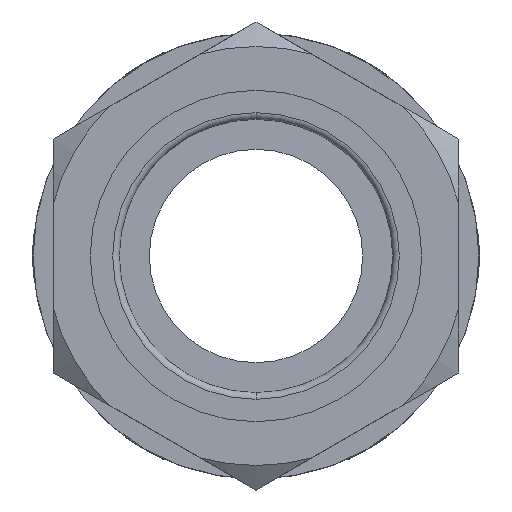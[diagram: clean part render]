
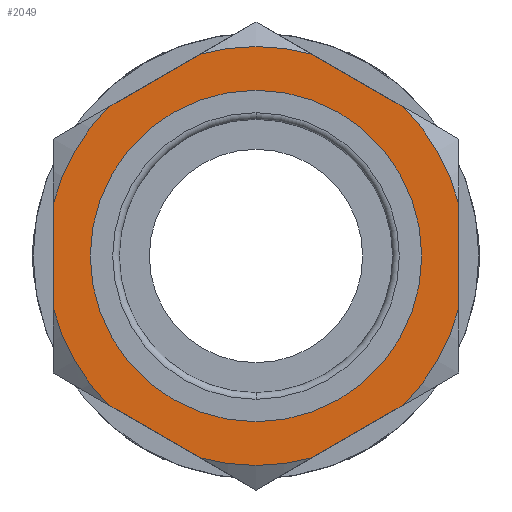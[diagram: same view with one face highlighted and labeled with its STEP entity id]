
A CAD part, front view. The second image highlights one B-rep face of the part: STEP entity #2049.
In plain terms, the highlighted planar face has unit normal (0, -1, 0).
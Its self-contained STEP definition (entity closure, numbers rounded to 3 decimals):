
#54 = CARTESIAN_POINT ( 'NONE',  ( 0., -41.2, 0. ) ) ;
#55 = DIRECTION ( 'NONE',  ( 0., 1., 0. ) ) ;
#56 = DIRECTION ( 'NONE',  ( -1., 0., 0. ) ) ;
#224 = CARTESIAN_POINT ( 'NONE',  ( 0., -41.2, -35.103 ) ) ;
#232 = FACE_OUTER_BOUND ( 'NONE', #1075, .T. ) ;
#233 = FACE_BOUND ( 'NONE', #1073, .T. ) ;
#234 = PLANE ( 'NONE',  #3987 ) ;
#236 = DIRECTION ( 'NONE',  ( 0., 1., 0. ) ) ;
#237 = DIRECTION ( 'NONE',  ( -1., 0., 0. ) ) ;
#756 = CARTESIAN_POINT ( 'NONE',  ( 8.346, -41.2, 30.285 ) ) ;
#757 = CARTESIAN_POINT ( 'NONE',  ( 30.4, -41.2, 7.915 ) ) ;
#758 = CARTESIAN_POINT ( 'NONE',  ( -8.346, -41.2, 30.285 ) ) ;
#759 = CARTESIAN_POINT ( 'NONE',  ( 22.054, -41.2, -22.37 ) ) ;
#760 = CARTESIAN_POINT ( 'NONE',  ( 22.054, -41.2, 22.37 ) ) ;
#761 = CARTESIAN_POINT ( 'NONE',  ( -8.346, -41.2, -30.285 ) ) ;
#762 = CARTESIAN_POINT ( 'NONE',  ( 30.4, -41.2, -7.915 ) ) ;
#763 = CARTESIAN_POINT ( 'NONE',  ( -30.4, -41.2, -7.915 ) ) ;
#764 = CARTESIAN_POINT ( 'NONE',  ( -22.054, -41.2, -22.37 ) ) ;
#765 = CARTESIAN_POINT ( 'NONE',  ( -22.054, -41.2, 22.37 ) ) ;
#775 = CARTESIAN_POINT ( 'NONE',  ( 8.346, -41.2, -30.285 ) ) ;
#784 = CARTESIAN_POINT ( 'NONE',  ( -30.4, -41.2, 7.915 ) ) ;
#1073 = EDGE_LOOP ( 'NONE', ( #2851, #2125 ) ) ;
#1075 = EDGE_LOOP ( 'NONE', ( #2843, #2844, #2845, #2846, #2847, #2848, #2849, #2850, #4574, #4575, #4576, #4577 ) ) ;
#1297 = VERTEX_POINT ( 'NONE', #3686 ) ;
#1349 = VERTEX_POINT ( 'NONE', #3732 ) ;
#1491 = LINE ( 'NONE', #1492, #4153 ) ;
#1492 = CARTESIAN_POINT ( 'NONE',  ( 0., -41.2, 35.103 ) ) ;
#1493 = DIRECTION ( 'NONE',  ( -0.866, 0., -0.5 ) ) ;
#1494 = CARTESIAN_POINT ( 'NONE',  ( 30.4, -41.2, -17.551 ) ) ;
#1498 = CARTESIAN_POINT ( 'NONE',  ( 30.4, -41.2, 17.551 ) ) ;
#1502 = LINE ( 'NONE', #1498, #4151 ) ;
#1503 = CARTESIAN_POINT ( 'NONE',  ( 0., -41.2, 0. ) ) ;
#1504 = DIRECTION ( 'NONE',  ( 0., 1., 0. ) ) ;
#1505 = DIRECTION ( 'NONE',  ( -1., 0., 0. ) ) ;
#1506 = DIRECTION ( 'NONE',  ( -0.866, 0., 0.5 ) ) ;
#1512 = CARTESIAN_POINT ( 'NONE',  ( 0., -41.2, 0. ) ) ;
#1513 = DIRECTION ( 'NONE',  ( 0., 1., 0. ) ) ;
#1514 = DIRECTION ( 'NONE',  ( -1., 0., 0. ) ) ;
#1516 = LINE ( 'NONE', #1494, #4142 ) ;
#1520 = DIRECTION ( 'NONE',  ( 0., 0., 1. ) ) ;
#1523 = CARTESIAN_POINT ( 'NONE',  ( 0., -41.2, 0. ) ) ;
#1524 = DIRECTION ( 'NONE',  ( 0., 1., 0. ) ) ;
#1525 = DIRECTION ( 'NONE',  ( -1., 0., 0. ) ) ;
#1528 = LINE ( 'NONE', #1535, #4128 ) ;
#1535 = CARTESIAN_POINT ( 'NONE',  ( 0., -41.2, -35.103 ) ) ;
#1543 = DIRECTION ( 'NONE',  ( 0.866, 0., 0.5 ) ) ;
#1549 = LINE ( 'NONE', #1556, #4116 ) ;
#1553 = CARTESIAN_POINT ( 'NONE',  ( 0., -41.2, 0. ) ) ;
#1554 = DIRECTION ( 'NONE',  ( 0., 1., 0. ) ) ;
#1555 = DIRECTION ( 'NONE',  ( -1., 0., 0. ) ) ;
#1556 = CARTESIAN_POINT ( 'NONE',  ( -30.4, -41.2, -17.551 ) ) ;
#1563 = DIRECTION ( 'NONE',  ( 0.866, 0., -0.5 ) ) ;
#1567 = CARTESIAN_POINT ( 'NONE',  ( -30.4, -41.2, 17.551 ) ) ;
#1571 = LINE ( 'NONE', #1567, #4118 ) ;
#1575 = DIRECTION ( 'NONE',  ( 0., 0., -1. ) ) ;
#1576 = CARTESIAN_POINT ( 'NONE',  ( 0., -41.2, 0. ) ) ;
#1577 = DIRECTION ( 'NONE',  ( 0., 1., 0. ) ) ;
#1578 = DIRECTION ( 'NONE',  ( -1., 0., 0. ) ) ;
#1814 = EDGE_CURVE ( 'NONE', #4525, #4532, #1491, .T. ) ;
#1817 = EDGE_CURVE ( 'NONE', #4525, #4522, #4149, .T. ) ;
#1818 = EDGE_CURVE ( 'NONE', #4527, #4522, #1502, .T. ) ;
#1820 = EDGE_CURVE ( 'NONE', #4527, #4524, #4147, .T. ) ;
#1823 = EDGE_CURVE ( 'NONE', #4529, #4524, #1516, .T. ) ;
#1824 = EDGE_CURVE ( 'NONE', #4529, #4526, #4137, .T. ) ;
#1830 = EDGE_CURVE ( 'NONE', #4544, #4526, #1528, .T. ) ;
#1834 = EDGE_CURVE ( 'NONE', #4544, #4528, #4122, .T. ) ;
#1837 = EDGE_CURVE ( 'NONE', #4531, #4528, #1549, .T. ) ;
#1841 = EDGE_CURVE ( 'NONE', #4553, #4530, #1571, .T. ) ;
#1842 = EDGE_CURVE ( 'NONE', #4553, #4532, #4107, .T. ) ;
#1874 = EDGE_CURVE ( 'NONE', #4531, #4530, #4050, .T. ) ;
#1911 = AXIS2_PLACEMENT_3D ( 'NONE', #3317, #3318, #3319 ) ;
#1927 = CIRCLE ( 'NONE', #1972, 24.865 ) ;
#1944 = CIRCLE ( 'NONE', #1911, 24.865 ) ;
#1972 = AXIS2_PLACEMENT_3D ( 'NONE', #3393, #3394, #3395 ) ;
#2049 = ADVANCED_FACE ( 'NONE', ( #232, #233 ), #234, .F. ) ;
#2125 = ORIENTED_EDGE ( 'NONE', *, *, #2319, .T. ) ;
#2293 = EDGE_CURVE ( 'NONE', #1349, #1297, #1944, .T. ) ;
#2319 = EDGE_CURVE ( 'NONE', #1297, #1349, #1927, .T. ) ;
#2843 = ORIENTED_EDGE ( 'NONE', *, *, #1842, .F. ) ;
#2844 = ORIENTED_EDGE ( 'NONE', *, *, #1841, .T. ) ;
#2845 = ORIENTED_EDGE ( 'NONE', *, *, #1874, .F. ) ;
#2846 = ORIENTED_EDGE ( 'NONE', *, *, #1837, .T. ) ;
#2847 = ORIENTED_EDGE ( 'NONE', *, *, #1834, .F. ) ;
#2848 = ORIENTED_EDGE ( 'NONE', *, *, #1830, .T. ) ;
#2849 = ORIENTED_EDGE ( 'NONE', *, *, #1824, .F. ) ;
#2850 = ORIENTED_EDGE ( 'NONE', *, *, #1823, .T. ) ;
#2851 = ORIENTED_EDGE ( 'NONE', *, *, #2293, .T. ) ;
#3317 = CARTESIAN_POINT ( 'NONE',  ( 0., -41.2, 0. ) ) ;
#3318 = DIRECTION ( 'NONE',  ( 0., 1., 0. ) ) ;
#3319 = DIRECTION ( 'NONE',  ( -1., 0., 0. ) ) ;
#3393 = CARTESIAN_POINT ( 'NONE',  ( 0., -41.2, 0. ) ) ;
#3394 = DIRECTION ( 'NONE',  ( 0., 1., 0. ) ) ;
#3395 = DIRECTION ( 'NONE',  ( -1., 0., 0. ) ) ;
#3686 = CARTESIAN_POINT ( 'NONE',  ( 0., -41.2, -24.865 ) ) ;
#3732 = CARTESIAN_POINT ( 'NONE',  ( 0., -41.2, 24.865 ) ) ;
#3987 = AXIS2_PLACEMENT_3D ( 'NONE', #224, #236, #237 ) ;
#4047 = AXIS2_PLACEMENT_3D ( 'NONE', #54, #55, #56 ) ;
#4050 = CIRCLE ( 'NONE', #4047, 31.413 ) ;
#4105 = AXIS2_PLACEMENT_3D ( 'NONE', #1576, #1577, #1578 ) ;
#4107 = CIRCLE ( 'NONE', #4105, 31.413 ) ;
#4116 = VECTOR ( 'NONE', #1563, 1000. ) ;
#4118 = VECTOR ( 'NONE', #1575, 1000. ) ;
#4119 = AXIS2_PLACEMENT_3D ( 'NONE', #1553, #1554, #1555 ) ;
#4122 = CIRCLE ( 'NONE', #4119, 31.413 ) ;
#4128 = VECTOR ( 'NONE', #1543, 1000. ) ;
#4135 = AXIS2_PLACEMENT_3D ( 'NONE', #1523, #1524, #1525 ) ;
#4137 = CIRCLE ( 'NONE', #4135, 31.413 ) ;
#4141 = AXIS2_PLACEMENT_3D ( 'NONE', #1512, #1513, #1514 ) ;
#4142 = VECTOR ( 'NONE', #1520, 1000. ) ;
#4146 = AXIS2_PLACEMENT_3D ( 'NONE', #1503, #1504, #1505 ) ;
#4147 = CIRCLE ( 'NONE', #4141, 31.413 ) ;
#4149 = CIRCLE ( 'NONE', #4146, 31.413 ) ;
#4151 = VECTOR ( 'NONE', #1506, 1000. ) ;
#4153 = VECTOR ( 'NONE', #1493, 1000. ) ;
#4522 = VERTEX_POINT ( 'NONE', #756 ) ;
#4524 = VERTEX_POINT ( 'NONE', #757 ) ;
#4525 = VERTEX_POINT ( 'NONE', #758 ) ;
#4526 = VERTEX_POINT ( 'NONE', #759 ) ;
#4527 = VERTEX_POINT ( 'NONE', #760 ) ;
#4528 = VERTEX_POINT ( 'NONE', #761 ) ;
#4529 = VERTEX_POINT ( 'NONE', #762 ) ;
#4530 = VERTEX_POINT ( 'NONE', #763 ) ;
#4531 = VERTEX_POINT ( 'NONE', #764 ) ;
#4532 = VERTEX_POINT ( 'NONE', #765 ) ;
#4544 = VERTEX_POINT ( 'NONE', #775 ) ;
#4553 = VERTEX_POINT ( 'NONE', #784 ) ;
#4574 = ORIENTED_EDGE ( 'NONE', *, *, #1820, .F. ) ;
#4575 = ORIENTED_EDGE ( 'NONE', *, *, #1818, .T. ) ;
#4576 = ORIENTED_EDGE ( 'NONE', *, *, #1817, .F. ) ;
#4577 = ORIENTED_EDGE ( 'NONE', *, *, #1814, .T. ) ;
